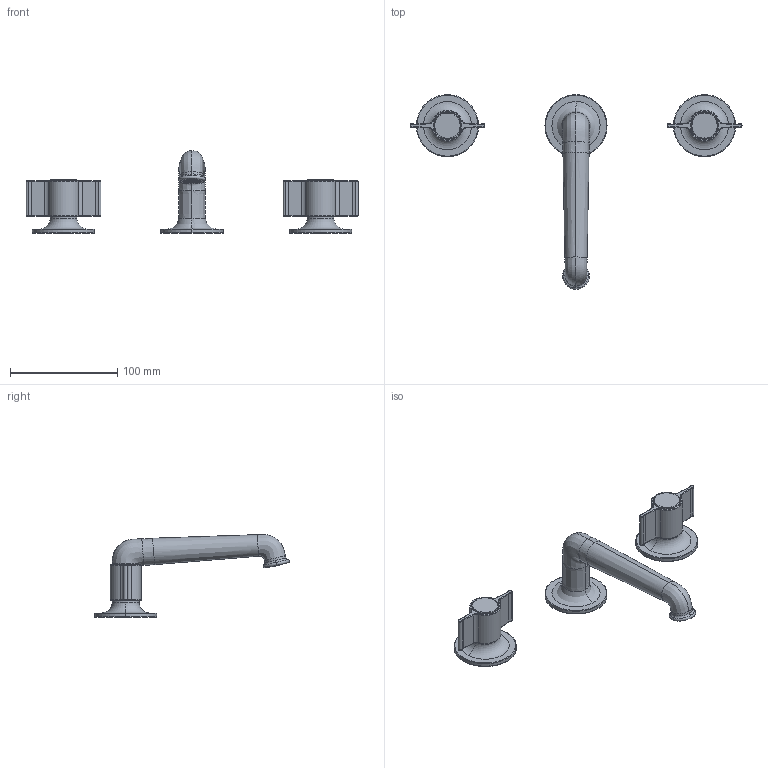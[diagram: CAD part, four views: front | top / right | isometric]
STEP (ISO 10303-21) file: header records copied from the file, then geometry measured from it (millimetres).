
FILE_DESCRIPTION((''),'2;1');
FILE_NAME('76000J404W000000_SW0001','2025-03-17T15:17:11',('cristian.dorz'),(''),'CREO PARAMETRIC BY PTC INC, 2022281','CREO PARAMETRIC BY PTC INC, 2022281','');
FILE_SCHEMA(('AUTOMOTIVE_DESIGN { 1 0 10303 214 1 1 1 1 }'));
Length unit declared in the file: millimetre
Products named in the file (1): 76000J404W000000_SW0001
Bounding box: 310 x 181.87 x 77.33 mm (x, y, z)
Volume: 191475.8 mm3; surface area: 47872.2 mm2
Topology: 3 solids, 7 shells, 633 faces, 1560 edges, 1002 vertices
Faces by surface type: plane 436, cylinder 75, torus 74, bspline 28, cone 14, extrusion 4, sphere 2
Entity records: 29925 total; most frequent: CARTESIAN_POINT 9950, DIRECTION 3375, ORIENTED_EDGE 3120, EDGE_CURVE 1560, AXIS2_PLACEMENT_3D 1269, VERTEX_POINT 1002, VECTOR 834, LINE 830
